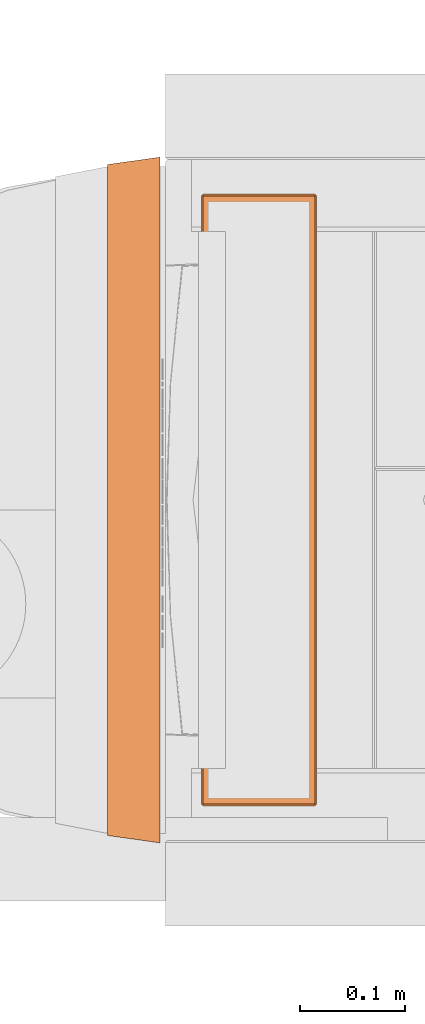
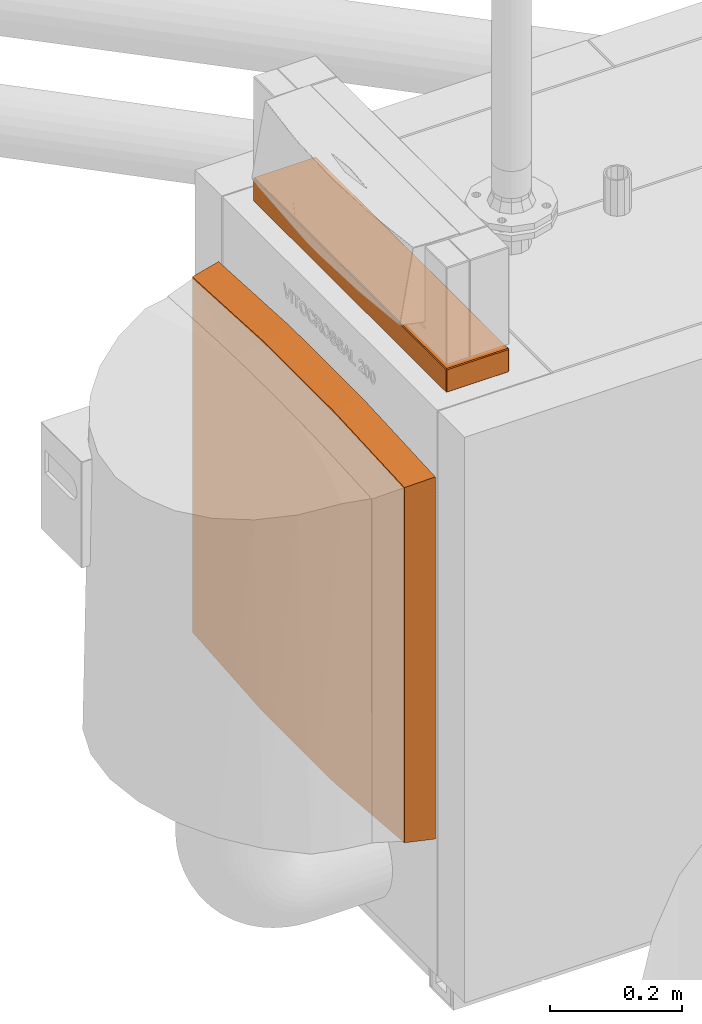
# One storey, part 365 of 374: 2 proxies.
"""IFC2X3 building model written with IfcOpenShell, lengths in metres."""

from ifc_helpers import new_model, si_unit, direction, origin, place, context, subcontext, project, spatial, open_shell, surface_model, source, transform, mapped, element, save


model = new_model("IFC2X3")

# Units and contexts
model_context = context("Model", 3, precision=1e-05, world=origin(), true_north=direction((-0.4480736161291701, 0.8939966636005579)))
body_context = subcontext(model_context, "Body", "Model", "MODEL_VIEW")
ifc_project = project(units=[si_unit("LENGTHUNIT", "METRE"), si_unit("AREAUNIT", "SQUARE_METRE"), si_unit("VOLUMEUNIT", "CUBIC_METRE"), si_unit("PLANEANGLEUNIT", "RADIAN"), si_unit("THERMODYNAMICTEMPERATUREUNIT", "KELVIN"), si_unit("MASSUNIT", "GRAM", prefix="KILO"), si_unit("TIMEUNIT", "SECOND")], contexts=[model_context])

# Site, building, storey
site_placement = place(None, origin())
site = spatial("IfcSite", under=ifc_project, at=site_placement, Name="Site 1", CompositionType="ELEMENT")
building_placement = place(site_placement, origin())
building = spatial("IfcBuilding", under=site, at=building_placement, Name="Undefined", CompositionType="ELEMENT")
storey_placement = place(building_placement, origin())
storey = spatial("IfcBuildingStorey", under=building, at=storey_placement, Name="Rez de chauss\x8ee", CompositionType="ELEMENT", Elevation=0.0)

# Proxies
shared_shape_1 = source(origin(), body_context, "Body", "SurfaceModel", [
    surface_model("IfcFaceBasedSurfaceModel", [(0.010018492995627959, 0.04987408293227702, -3.552713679e-15), (0.0, 0.0, 0.0), (0.6641702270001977, -7.105427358e-15, -3.552713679e-15), (0.6667932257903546, -0.050837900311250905, 0.0), (-0.005379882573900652, 0.08087884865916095, -0.2116426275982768), (-0.016083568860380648, 0.03170878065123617, -0.21626682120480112), (-0.0031109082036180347, 0.11063886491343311, -0.4240107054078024), (-0.013764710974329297, 0.06212307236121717, -0.4333038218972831), (0.016809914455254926, 0.13895081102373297, -0.6356533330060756), (0.006940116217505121, 0.09102701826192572, -0.6495706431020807), (0.6709654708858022, 0.08907643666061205, -0.6356533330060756), (0.6737372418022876, 0.040188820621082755, -0.6495706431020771), (0.6801015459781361, 0.05852923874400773, -0.4238696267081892), (0.6833083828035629, 0.008955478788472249, -0.43315423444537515), (0.6778343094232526, 0.02880884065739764, -0.21178357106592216), (0.6809914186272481, -0.021416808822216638, -0.21641626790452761)], [open_shell([[[0, 1, 2]], [[2, 1, 3]], [[0, 4, 1]], [[1, 4, 5]], [[4, 6, 5]], [[5, 6, 7]], [[6, 8, 7]], [[7, 8, 9]], [[8, 10, 9]], [[9, 10, 11]], [[10, 12, 11]], [[11, 12, 13]], [[12, 14, 13]], [[13, 14, 15]], [[14, 2, 15]], [[15, 2, 3]], [[2, 14, 0]], [[0, 14, 4]], [[4, 14, 6]], [[6, 14, 12]], [[6, 12, 8]], [[8, 12, 10]], [[11, 13, 9]], [[9, 13, 7]], [[13, 15, 7]], [[7, 15, 5]], [[3, 1, 15]], [[15, 1, 5]]])]),
])
proxy_1_placement = place(storey_placement, origin())
element("IfcBuildingElementProxy", 1, at=proxy_1_placement, inside=storey, Name="BuildingElementProxy 19", context=body_context, shape_type="MappedRepresentation", body=[
    mapped(shared_shape_1, transform((53.594989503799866, 12.72823581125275, 0.44585998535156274), x_axis=(-0.07528190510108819, 0.010580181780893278, 0.9971061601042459), y_axis=(-0.9874023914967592, 0.13877035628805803, -0.07602174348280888), z_axis=(-0.13917310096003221, -0.990268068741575, 2.683617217e-15))),
])
shared_shape_2 = source(origin(), body_context, "Body", "SurfaceModel", [
    surface_model("IfcFaceBasedSurfaceModel", [(0.001060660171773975, 0.0007500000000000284, 0.0), (0.0, 0.0, 0.0), (0.0021213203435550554, 0.0, -7.105427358e-15), (0.0, -0.581997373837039, 1.946887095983e-12), (0.0021213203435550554, -0.581997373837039, 1.939781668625e-12), (0.001060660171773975, -0.582747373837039, 1.95399252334e-12), (0.07777661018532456, -0.581997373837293, -0.07565528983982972), (0.07777661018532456, -2.54019028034e-13, -0.07565528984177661), (0.07671595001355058, -0.5834973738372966, -0.07671595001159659), (0.0010606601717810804, -0.5834973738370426, -0.0010606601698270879), (0.07777661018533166, -0.5827473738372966, -0.07671595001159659), (0.07777661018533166, -0.5819973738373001, -0.07777661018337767), (0.07777661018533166, -2.61124455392e-13, -0.07777661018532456), (0.07777661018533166, 0.0007499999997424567, -0.07671595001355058), (0.07671595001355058, 0.001499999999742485, -0.07671595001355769), (0.0010606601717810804, 0.0014999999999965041, -0.0010606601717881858), (-0.028958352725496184, -0.5819973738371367, -0.02895835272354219), (-0.027897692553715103, -0.5834973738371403, -0.030019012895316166), (-0.028958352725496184, -0.5827473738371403, -0.030019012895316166), (-0.028958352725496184, -9.7699626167e-14, -0.028958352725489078), (-0.027897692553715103, 0.0014999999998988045, -0.030019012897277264), (-0.028958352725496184, 0.0007499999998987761, -0.03001901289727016), (0.0477575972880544, 0.0014999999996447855, -0.10567430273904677), (-0.028958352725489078, -0.5819973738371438, -0.031079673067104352), (-0.028958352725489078, -1.04805053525e-13, -0.03107967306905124), (0.046696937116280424, -0.5819973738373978, -0.10673496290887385), (0.046696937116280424, -3.58824081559e-13, -0.10673496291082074), (0.0477575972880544, -0.5834973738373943, -0.10567430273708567), (0.047757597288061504, -0.5827473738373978, -0.10673496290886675), (0.047757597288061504, 0.0007499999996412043, -0.10673496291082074), (0.04881825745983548, -3.58824081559e-13, -0.10673496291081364), (0.04881825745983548, -0.5819973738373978, -0.10673496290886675)], [open_shell([[[0, 1, 2]], [[2, 1, 3]], [[2, 3, 4]], [[4, 3, 5]], [[4, 6, 2]], [[2, 6, 7]], [[8, 6, 9]], [[9, 6, 4]], [[9, 4, 5]], [[8, 10, 6]], [[10, 11, 6]], [[6, 11, 12]], [[6, 12, 7]], [[7, 12, 13]], [[7, 14, 2]], [[2, 14, 15]], [[2, 15, 0]], [[7, 13, 14]], [[5, 3, 9]], [[9, 3, 16]], [[9, 16, 17]], [[17, 16, 18]], [[19, 16, 1]], [[1, 16, 3]], [[0, 15, 1]], [[1, 15, 20]], [[1, 20, 19]], [[19, 20, 21]], [[22, 20, 14]], [[14, 20, 15]], [[18, 16, 23]], [[23, 16, 19]], [[23, 19, 24]], [[24, 19, 21]], [[25, 23, 26]], [[26, 23, 24]], [[17, 23, 27]], [[27, 23, 25]], [[27, 25, 28]], [[17, 18, 23]], [[29, 30, 26]], [[26, 30, 31]], [[26, 31, 25]], [[25, 31, 28]], [[24, 20, 26]], [[26, 20, 22]], [[26, 22, 29]], [[24, 21, 20]], [[17, 27, 9]], [[9, 27, 8]], [[10, 8, 11]], [[11, 8, 27]], [[11, 27, 31]], [[31, 27, 28]], [[31, 30, 11]], [[11, 30, 12]], [[13, 12, 14]], [[14, 12, 30]], [[14, 30, 22]], [[22, 30, 29]]])]),
])
proxy_2_placement = place(storey_placement, origin())
element("IfcBuildingElementProxy", 2, at=proxy_2_placement, inside=storey, Name="BuildingElementProxy 22", context=body_context, shape_type="MappedRepresentation", body=[
    mapped(shared_shape_2, transform((53.74459224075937, 13.347211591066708, 1.2355000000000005), x_axis=(-0.7071067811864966, 0.0, -0.7071067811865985), y_axis=(0.0, 1.0, 0.0), z_axis=(0.707106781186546, 0.0, -0.707106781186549))),
])

save(model, "model.ifc")
